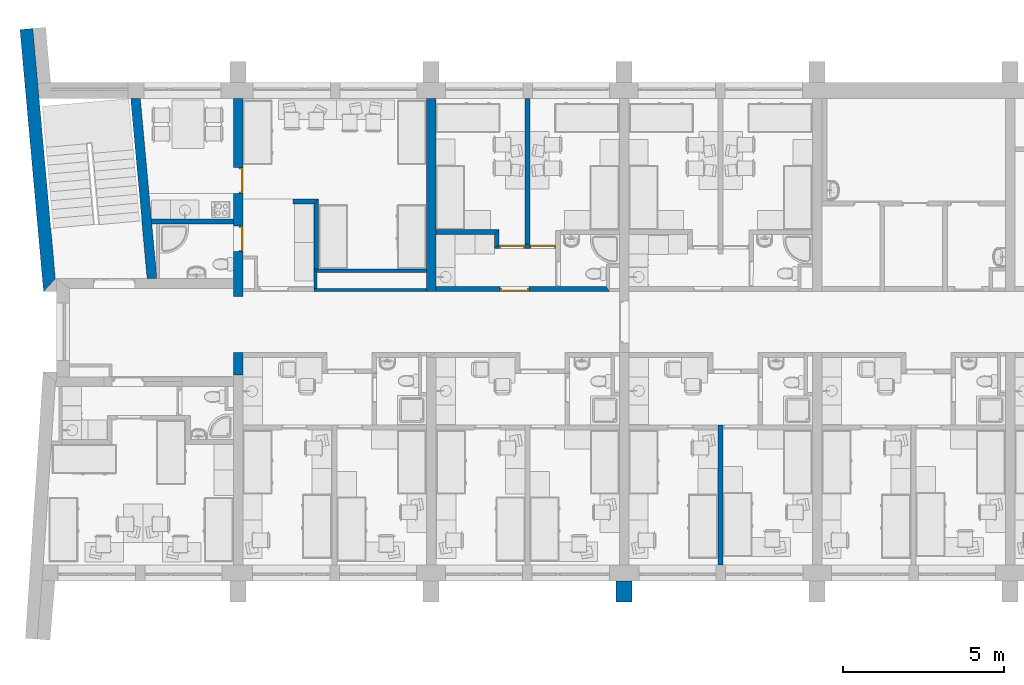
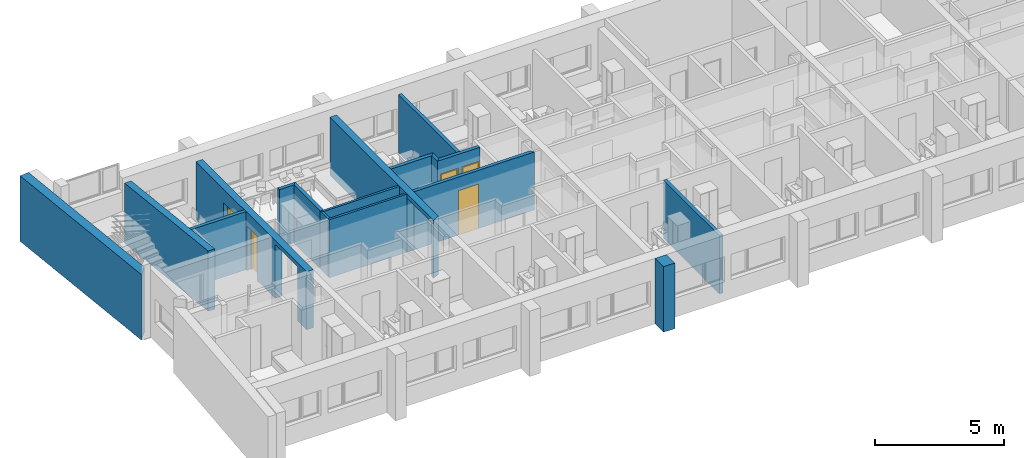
# One storey, part 5 of 172: 17 walls, 5 doors, 7 openings.
"""IFC2X3 building model written with IfcOpenShell, lengths in millimetres."""

from ifc_helpers import new_model, entity, si_unit, converted_unit, money_unit, direction, frame, origin_with_axes, place, context, subcontext, project, spatial, polyline, outline, extrude, faceted_brep, source, transform, mapped, material, material_list, layer, layer_set, layer_usage, type_object, element, fill, save


model = new_model("IFC2X3")

# Units and contexts
model_context = context("Model", 3, precision=1e-05, world=origin_with_axes(), true_north=direction((0.0, 1.0)))
body_context = subcontext(model_context, "Body", "Model", "MODEL_VIEW")
ifc_project = project(units=[si_unit("LENGTHUNIT", "METRE", prefix="MILLI"), si_unit("AREAUNIT", "SQUARE_METRE"), si_unit("VOLUMEUNIT", "CUBIC_METRE"), converted_unit("PLANEANGLEUNIT", "DEGREE", entity("IfcPlaneAngleMeasure", 0.0174532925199), si_unit("PLANEANGLEUNIT", "RADIAN"), dimensions=[0, 0, 0, 0, 0, 0, 0]), si_unit("SOLIDANGLEUNIT", "STERADIAN"), money_unit("USD"), converted_unit("TIMEUNIT", "Year", entity("IfcTimeMeasure", 31556926.0), si_unit("TIMEUNIT", "SECOND"), dimensions=[0, 0, 0, 0, 0, 0, 0]), si_unit("MASSUNIT", "GRAM"), si_unit("THERMODYNAMICTEMPERATUREUNIT", "DEGREE_CELSIUS"), si_unit("LUMINOUSINTENSITYUNIT", "LUMEN")], contexts=[model_context])

# Site, building, storey
site_placement = place(None, origin_with_axes())
site = spatial("IfcSite", under=ifc_project, at=site_placement, Name="Site", CompositionType="ELEMENT")
building_placement = place(site_placement, origin_with_axes())
building = spatial("IfcBuilding", under=site, at=building_placement, Name="Building", CompositionType="ELEMENT")
storey_placement = place(building_placement, frame((0.0, 0.0, 3200.0), z_axis=(0.0, 0.0, 1.0), x_axis=(1.0, 0.0, 0.0)))
storey = spatial("IfcBuildingStorey", under=building, at=storey_placement, Name="3KORRUS", CompositionType="ELEMENT", Elevation=3200.0)

# Walls
ifc_material_1 = material(Name="Olemasolevad seinad tellis, uus viimistlus")
ifc_layer_1 = layer(ifc_material_1, 400.0, ventilated="UNKNOWN")
ifc_layer_set_1 = layer_set([ifc_layer_1], Name="Olemasolevad seinad tellis, uus viimistlus 400")
ifc_layer_usage_1 = layer_usage(ifc_layer_set_1, "AXIS2", "POSITIVE", -400.0)
wall_type_1 = type_object("IfcWallType", Name="Olemasolevad seinad tellis, uus viimistlus 400", PredefinedType="NOTDEFINED")
wall_1_placement = place(storey_placement, frame((-54187.7234453, -11140.7868098, 0.0), z_axis=(0.0, 0.0, 1.0), x_axis=(-0.0895981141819, 0.995978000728, 0.0)))
element("IfcWallStandardCase", 1, at=wall_1_placement, inside=storey, type_object=wall_type_1, material=ifc_layer_usage_1, Name="VS1", ObjectType="VS1", context=body_context, shape_type="SweptSolid", body=[
    extrude(outline(polyline([(365.631323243, -400.0), (8177.32831985, -400.0), (8177.32831985, 0.0), (0.0, 0.0), (365.631323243, -400.0)])), origin_with_axes(), (0.0, 0.0, 1.0), 3100.0),
])
ifc_layer_2 = layer(ifc_material_1, 500.0, ventilated="UNKNOWN")
ifc_layer_set_2 = layer_set([ifc_layer_2], Name="Olemasolevad seinad tellis, uus viimistlus 500")
ifc_layer_usage_2 = layer_usage(ifc_layer_set_2, "AXIS2", "POSITIVE", -100.0)
wall_type_2 = type_object("IfcWallType", Name="Olemasolevad seinad tellis, uus viimistlus 500", PredefinedType="NOTDEFINED")
wall_2_placement = place(storey_placement, frame((-35990.2967033, -20796.6419407, 0.0), z_axis=(0.0, 0.0, 1.0), x_axis=(0.0, 1.0, 0.0)))
element("IfcWallStandardCase", 2, at=wall_2_placement, inside=storey, type_object=wall_type_2, material=ifc_layer_usage_2, Name="VS1", ObjectType="VS1", context=body_context, shape_type="SweptSolid", body=[
    extrude(outline(polyline([(0.0, -100.0), (657.402041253, -100.0), (657.402041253, 400.0), (0.0, 400.0), (0.0, -100.0)])), origin_with_axes(), (0.0, 0.0, 1.0), 3100.0),
])
ifc_material_2 = material(Name="UmbKipsplaat")
ifc_layer_3 = layer(ifc_material_2, 13.0, ventilated="UNKNOWN")
ifc_layer_4 = layer(ifc_material_2, 13.0, ventilated="UNKNOWN")
ifc_material_3 = material(Name="SOOJUSTUS MINERAALVILL")
ifc_layer_5 = layer(ifc_material_3, 98.0, ventilated="UNKNOWN")
ifc_layer_6 = layer(ifc_material_2, 13.0, ventilated="UNKNOWN")
ifc_layer_7 = layer(ifc_material_2, 13.0, ventilated="UNKNOWN")
ifc_layer_set_3 = layer_set([ifc_layer_3, ifc_layer_4, ifc_layer_5, ifc_layer_6, ifc_layer_7], Name="kipssein150")
ifc_layer_usage_3 = layer_usage(ifc_layer_set_3, "AXIS2", "POSITIVE", -150.0)
wall_type_3 = type_object("IfcWallType", Name="kipssein150 150", PredefinedType="NOTDEFINED")
wall_3_placement = place(storey_placement, frame((-40022.0319183, -9366.37850445, 0.0), z_axis=(0.0, 0.0, 1.0), x_axis=(0.0, -1.0, 0.0)))
element("IfcWallStandardCase", 3, at=wall_3_placement, inside=storey, type_object=wall_type_3, material=ifc_layer_usage_3, Name="SS1", ObjectType="SS1", context=body_context, shape_type="SweptSolid", body=[
    extrude(outline(polyline([(0.0, -150.0), (440.51563414, -150.0), (290.51563414, 0.0), (-150.0, 0.0), (0.0, -150.0)])), origin_with_axes(), (0.0, 0.0, 1.0), 2750.0),
])
ifc_layer_usage_4 = layer_usage(ifc_layer_set_3, "AXIS2", "POSITIVE", -150.0)
wall_4_placement = place(storey_placement, frame((-40022.0319183, -9366.37850445, 0.0), z_axis=(0.0, 0.0, 1.0), x_axis=(-1.0, 0.0, 0.0)))
element("IfcWallStandardCase", 4, at=wall_4_placement, inside=storey, type_object=wall_type_3, material=ifc_layer_usage_4, Name="SS1", ObjectType="SS1", context=body_context, shape_type="SweptSolid", body=[
    extrude(outline(polyline([(0.0, -150.0), (1968.264785, -150.0), (1968.264785, 0.0), (150.0, 0.0), (0.0, -150.0)])), origin_with_axes(), (0.0, 0.0, 1.0), 2750.0),
])
ifc_layer_usage_5 = layer_usage(ifc_layer_set_3, "AXIS2", "POSITIVE", 0.0)
wall_5_placement = place(storey_placement, frame((-39222.0319183, -5039.6041088, 0.0), z_axis=(0.0, 0.0, 1.0), x_axis=(0.0, -1.0, 0.0)))
element("IfcWallStandardCase", 5, at=wall_5_placement, inside=storey, type_object=wall_type_3, material=ifc_layer_usage_5, Name="SS1", ObjectType="SS1", context=body_context, shape_type="SweptSolid", body=[
    extrude(outline(polyline([(100.0, 0.0), (4617.29002979, 0.0), (4617.29002979, 150.0), (100.0, 150.0), (100.0, 0.0)])), origin_with_axes(), (0.0, 0.0, 1.0), 2750.0),
])

# Wall, openings, doors
ifc_layer_usage_6 = layer_usage(ifc_layer_set_3, "AXIS2", "POSITIVE", 0.0)
wall_6_placement = place(storey_placement, frame((-40022.0319183, -9806.89413859, 0.0), z_axis=(0.0, 0.0, 1.0), x_axis=(1.0, 0.0, 0.0)))
wall_6 = element("IfcWallStandardCase", 6, at=wall_6_placement, inside=storey, type_object=wall_type_3, material=ifc_layer_usage_6, Name="SS1", ObjectType="SS1", context=body_context, shape_type="SweptSolid", body=[
    extrude(outline(polyline([(-150.0, 0.0), (1750.4468196, 0.0), (1750.4468196, 150.0), (0.0, 150.0), (-150.0, 0.0)])), origin_with_axes(), (0.0, 0.0, 1.0), 2750.0),
])
opening_1_placement = place(wall_6_placement, frame((1350.45577623, 0.0, 0.0), z_axis=(0.0, 0.0, 1.0), x_axis=(1.0, 0.0, 0.0)))
opening_1 = element("IfcOpeningElement", 7, at=opening_1_placement, cuts=wall_6, Name="SU3-5", context=body_context, shape_type="SweptSolid", body=[
    extrude(outline(polyline([(-400.0, 0.0), (400.0, 0.0), (400.0, 2100.0), (-400.0, 2100.0), (-400.0, 0.0)])), frame((0.0, 150.0, 0.0), z_axis=(0.0, 1.0, 0.0), x_axis=(-1.0, 0.0, 0.0)), (0.0, 0.0, -1.0), 450.0),
])
opening_2_placement = place(wall_6_placement, frame((400.0, 0.0, 0.0), z_axis=(0.0, 0.0, 1.0), x_axis=(1.0, 0.0, 0.0)))
opening_2 = element("IfcOpeningElement", 8, at=opening_2_placement, cuts=wall_6, Name="SU3-4", context=body_context, shape_type="SweptSolid", body=[
    extrude(outline(polyline([(-400.0, 0.0), (400.0, 0.0), (400.0, 2100.0), (-400.0, 2100.0), (-400.0, 0.0)])), frame((0.0, 150.0, 0.0), z_axis=(0.0, -1.0, 0.0), x_axis=(1.0, 0.0, 0.0)), (0.0, 0.0, 1.0), 450.0),
])
ifc_material_4 = material(Name="Background")
ifc_material_list = material_list([ifc_material_4])
door_style_1 = type_object("IfcDoorStyle", Name="Door 19", ConstructionType="NOTDEFINED", OperationType="SINGLE_SWING_LEFT", ParameterTakesPrecedence=False, Sizeable=False)
shared_shape_1 = source(origin_with_axes(), body_context, "Body", "Brep", [
    faceted_brep([(360.0, -75.0, 0.0), (360.0, -150.0, 0.0), (360.0, -150.0, 2060.0), (360.0, -75.0, 2060.0), (372.0, -75.0, 0.0), (372.0, -35.0, 0.0), (400.0, -35.0, 0.0), (400.0, -150.0, 0.0), (400.0, -150.0, 2060.0), (372.0, -75.0, 2060.0), (400.0, -35.0, 2060.0), (372.0, -35.0, 2060.0)], [[[0, 1, 2, 3]], [[4, 5, 6, 7, 1, 0]], [[2, 1, 7, 8]], [[9, 3, 2, 8, 10, 11]], [[9, 4, 0, 3]], [[11, 5, 4, 9]], [[11, 10, 6, 5]], [[7, 6, 10, 8]]]),
    faceted_brep([(-372.0, -75.0, 2060.0), (-372.0, -35.0, 2060.0), (-400.0, -35.0, 2060.0), (-400.0, -150.0, 2060.0), (-360.0, -150.0, 2060.0), (-360.0, -75.0, 2060.0), (-372.0, -75.0, 0.0), (-372.0, -35.0, 0.0), (-400.0, -35.0, 0.0), (-400.0, -150.0, 0.0), (-360.0, -150.0, 0.0), (-360.0, -75.0, 0.0)], [[[0, 1, 2, 3, 4, 5]], [[0, 6, 7, 1]], [[7, 8, 2, 1]], [[3, 2, 8, 9]], [[4, 3, 9, 10]], [[5, 4, 10, 11]], [[5, 11, 6, 0]], [[6, 11, 10, 9, 8, 7]]]),
    faceted_brep([(372.0, -35.0, 2072.0), (-372.0, -35.0, 2072.0), (-372.0, -35.0, 2060.0), (-400.0, -35.0, 2060.0), (-400.0, -35.0, 2100.0), (400.0, -35.0, 2100.0), (400.0, -35.0, 2060.0), (372.0, -35.0, 2060.0), (372.0, -75.0, 2072.0), (-372.0, -75.0, 2072.0), (-372.0, -75.0, 2060.0), (-360.0, -75.0, 2060.0), (-360.0, -150.0, 2060.0), (-400.0, -150.0, 2060.0), (-400.0, -150.0, 2100.0), (400.0, -150.0, 2100.0), (400.0, -150.0, 2060.0), (372.0, -75.0, 2060.0), (360.0, -150.0, 2060.0), (360.0, -75.0, 2060.0)], [[[0, 1, 2, 3, 4, 5, 6, 7]], [[0, 8, 9, 1]], [[1, 9, 10, 2]], [[10, 11, 12, 13, 3, 2]], [[14, 4, 3, 13]], [[15, 5, 4, 14]], [[16, 6, 5, 15]], [[17, 7, 6, 16, 18, 19]], [[7, 17, 8, 0]], [[10, 9, 8, 17, 19, 11]], [[19, 18, 12, 11]], [[13, 12, 18, 16, 15, 14]]]),
    faceted_brep([(-372.0, -35.0, 0.0), (372.0, -35.0, 0.0), (372.0, -75.0, 0.0), (-372.0, -75.0, 0.0), (-372.0, -35.0, 2072.0), (372.0, -35.0, 2072.0), (372.0, -75.0, 2072.0), (-372.0, -75.0, 2072.0)], [[[0, 1, 2, 3]], [[0, 4, 5, 1]], [[1, 5, 6, 2]], [[3, 2, 6, 7]], [[4, 0, 3, 7]], [[5, 4, 7, 6]]]),
])
door_1_placement = place(opening_1_placement, frame((-400.0, 0.0, 0.0), z_axis=(0.0, 0.0, 1.0), x_axis=(1.0, 0.0, 0.0)))
door_1 = element("IfcDoor", 9, at=door_1_placement, inside=storey, type_object=door_style_1, material=ifc_material_list, Name="SU3-5", ObjectType="Toa uks", OverallHeight=2100.0, OverallWidth=800.0, context=body_context, shape_type="MappedRepresentation", body=[
    mapped(shared_shape_1, transform((400.0, 150.0, 0.0))),
])
fill(opening_1, door_1)
door_style_2 = type_object("IfcDoorStyle", Name="Door 19", ConstructionType="NOTDEFINED", OperationType="SINGLE_SWING_RIGHT", ParameterTakesPrecedence=False, Sizeable=False)
shared_shape_2 = source(origin_with_axes(), body_context, "Body", "Brep", [
    faceted_brep([(-360.0, -75.0, 0.0), (-360.0, -75.0, 2060.0), (-360.0, -150.0, 2060.0), (-360.0, -150.0, 0.0), (-372.0, -75.0, 2060.0), (-372.0, -75.0, 0.0), (-372.0, -35.0, 2060.0), (-400.0, -35.0, 2060.0), (-400.0, -150.0, 2060.0), (-400.0, -150.0, 0.0), (-400.0, -35.0, 0.0), (-372.0, -35.0, 0.0)], [[[0, 1, 2, 3]], [[4, 1, 0, 5]], [[4, 6, 7, 8, 2, 1]], [[2, 8, 9, 3]], [[5, 0, 3, 9, 10, 11]], [[6, 4, 5, 11]], [[6, 11, 10, 7]], [[9, 8, 7, 10]]]),
    faceted_brep([(372.0, -75.0, 2060.0), (360.0, -75.0, 2060.0), (360.0, -150.0, 2060.0), (400.0, -150.0, 2060.0), (400.0, -35.0, 2060.0), (372.0, -35.0, 2060.0), (372.0, -75.0, 0.0), (360.0, -75.0, 0.0), (360.0, -150.0, 0.0), (400.0, -150.0, 0.0), (400.0, -35.0, 0.0), (372.0, -35.0, 0.0)], [[[0, 1, 2, 3, 4, 5]], [[1, 0, 6, 7]], [[1, 7, 8, 2]], [[2, 8, 9, 3]], [[3, 9, 10, 4]], [[11, 5, 4, 10]], [[0, 5, 11, 6]], [[6, 11, 10, 9, 8, 7]]]),
    faceted_brep([(-372.0, -35.0, 2072.0), (-372.0, -35.0, 2060.0), (-400.0, -35.0, 2060.0), (-400.0, -35.0, 2100.0), (400.0, -35.0, 2100.0), (400.0, -35.0, 2060.0), (372.0, -35.0, 2060.0), (372.0, -35.0, 2072.0), (-372.0, -75.0, 2072.0), (-372.0, -75.0, 2060.0), (-360.0, -75.0, 2060.0), (-360.0, -150.0, 2060.0), (-400.0, -150.0, 2060.0), (-400.0, -150.0, 2100.0), (400.0, -150.0, 2100.0), (400.0, -150.0, 2060.0), (372.0, -75.0, 2060.0), (360.0, -150.0, 2060.0), (360.0, -75.0, 2060.0), (372.0, -75.0, 2072.0)], [[[0, 1, 2, 3, 4, 5, 6, 7]], [[1, 0, 8, 9]], [[9, 10, 11, 12, 2, 1]], [[12, 13, 3, 2]], [[13, 14, 4, 3]], [[14, 15, 5, 4]], [[16, 6, 5, 15, 17, 18]], [[7, 6, 16, 19]], [[0, 7, 19, 8]], [[16, 18, 10, 9, 8, 19]], [[10, 18, 17, 11]], [[15, 14, 13, 12, 11, 17]]]),
    faceted_brep([(372.0, -35.0, 0.0), (372.0, -75.0, 0.0), (-372.0, -75.0, 0.0), (-372.0, -35.0, 0.0), (372.0, -35.0, 2072.0), (372.0, -75.0, 2072.0), (-372.0, -75.0, 2072.0), (-372.0, -35.0, 2072.0)], [[[0, 1, 2, 3]], [[4, 5, 1, 0]], [[1, 5, 6, 2]], [[3, 2, 6, 7]], [[0, 3, 7, 4]], [[7, 6, 5, 4]]]),
])
door_2_placement = place(opening_2_placement, frame((-400.0, 0.0, 0.0), z_axis=(0.0, 0.0, 1.0), x_axis=(1.0, 0.0, 0.0)))
door_2 = element("IfcDoor", 10, at=door_2_placement, inside=storey, type_object=door_style_2, material=ifc_material_list, Name="SU3-4", ObjectType="Toa uks", OverallHeight=2100.0, OverallWidth=800.0, context=body_context, shape_type="MappedRepresentation", body=[
    mapped(shared_shape_2, transform((400.0, 150.0, 0.0))),
])
fill(opening_2, door_2)

# Walls
ifc_layer_usage_7 = layer_usage(ifc_layer_set_3, "AXIS2", "POSITIVE", 0.0)
wall_7_placement = place(storey_placement, frame((-46433.9824806, -8409.87086674, 0.0), z_axis=(0.0, 0.0, 1.0), x_axis=(1.0, 0.0, 0.0)))
element("IfcWallStandardCase", 11, at=wall_7_placement, inside=storey, type_object=wall_type_3, material=ifc_layer_usage_7, Name="SS1", ObjectType="SS1", context=body_context, shape_type="SweptSolid", body=[
    extrude(outline(polyline([(0.0, 0.0), (649.8497058, 0.0), (799.8497058, 150.0), (0.0, 150.0), (0.0, 0.0)])), origin_with_axes(), (0.0, 0.0, 1.0), 2750.0),
])
ifc_layer_usage_8 = layer_usage(ifc_layer_set_3, "AXIS2", "POSITIVE", 0.0)
wall_8_placement = place(storey_placement, frame((-45784.1327748, -8409.87086674, 0.0), z_axis=(0.0, 0.0, 1.0), x_axis=(0.0, -1.0, 0.0)))
element("IfcWallStandardCase", 12, at=wall_8_placement, inside=storey, type_object=wall_type_3, material=ifc_layer_usage_8, Name="SS1", ObjectType="SS1", context=body_context, shape_type="SweptSolid", body=[
    extrude(outline(polyline([(0.0, 0.0), (2030.09981647, 0.0), (2030.09981647, 150.0), (-150.0, 150.0), (0.0, 0.0)])), origin_with_axes(), (0.0, 0.0, 1.0), 2750.0),
])

# Wall, opening, door
ifc_layer_usage_9 = layer_usage(ifc_layer_set_3, "AXIS2", "POSITIVE", 0.0)
wall_9_placement = place(storey_placement, frame((-41990.2967033, -11136.6041088, 0.0), z_axis=(0.0, 0.0, 1.0), x_axis=(1.0, 0.0, 0.0)))
wall_9 = element("IfcWallStandardCase", 13, at=wall_9_placement, inside=storey, type_object=wall_type_3, material=ifc_layer_usage_9, Name="SS1", ObjectType="SS1", context=body_context, shape_type="SweptSolid", body=[
    extrude(outline(polyline([(0.0, 0.0), (5400.2883953, 0.0), (5300.2883953, 150.0), (0.0, 150.0), (0.0, 0.0)])), origin_with_axes(), (0.0, 0.0, 1.0), 2750.0),
])
opening_3_placement = place(wall_9_placement, frame((2443.26478505, 0.0, 0.0), z_axis=(0.0, 0.0, 1.0), x_axis=(1.0, 0.0, 0.0)))
opening_3 = element("IfcOpeningElement", 14, at=opening_3_placement, cuts=wall_9, Name="SU2-6", context=body_context, shape_type="SweptSolid", body=[
    extrude(outline(polyline([(-450.0, -2100.0), (450.0, -2100.0), (450.0, 0.0), (-450.0, 0.0), (-450.0, -2100.0)])), frame((0.0, 150.0, 0.0), z_axis=(0.0, 1.0, 0.0), x_axis=(1.0, 0.0, 0.0)), (0.0, 0.0, -1.0), 450.0),
])
door_style_3 = type_object("IfcDoorStyle", Name="Door 19", ConstructionType="NOTDEFINED", OperationType="SINGLE_SWING_LEFT", ParameterTakesPrecedence=False, Sizeable=False)
shared_shape_3 = source(origin_with_axes(), body_context, "Body", "Brep", [
    faceted_brep([(410.0, -40.0, 0.0), (410.0, -115.0, 0.0), (410.0, -115.0, 2060.0), (410.0, -40.0, 2060.0), (422.0, -40.0, 0.0), (422.0, 0.0, 0.0), (450.0, 0.0, 0.0), (450.0, -115.0, 0.0), (450.0, -115.0, 2060.0), (422.0, -40.0, 2060.0), (450.0, 0.0, 2060.0), (422.0, 0.0, 2060.0)], [[[0, 1, 2, 3]], [[4, 5, 6, 7, 1, 0]], [[2, 1, 7, 8]], [[9, 3, 2, 8, 10, 11]], [[9, 4, 0, 3]], [[11, 5, 4, 9]], [[11, 10, 6, 5]], [[7, 6, 10, 8]]]),
    faceted_brep([(-422.0, -40.0, 2060.0), (-422.0, 0.0, 2060.0), (-450.0, 0.0, 2060.0), (-450.0, -115.0, 2060.0), (-410.0, -115.0, 2060.0), (-410.0, -40.0, 2060.0), (-422.0, -40.0, 0.0), (-422.0, 0.0, 0.0), (-450.0, 0.0, 0.0), (-450.0, -115.0, 0.0), (-410.0, -115.0, 0.0), (-410.0, -40.0, 0.0)], [[[0, 1, 2, 3, 4, 5]], [[0, 6, 7, 1]], [[7, 8, 2, 1]], [[3, 2, 8, 9]], [[4, 3, 9, 10]], [[5, 4, 10, 11]], [[5, 11, 6, 0]], [[6, 11, 10, 9, 8, 7]]]),
    faceted_brep([(422.0, 0.0, 2072.0), (-422.0, 0.0, 2072.0), (-422.0, 0.0, 2060.0), (-450.0, 0.0, 2060.0), (-450.0, 0.0, 2100.0), (450.0, 0.0, 2100.0), (450.0, 0.0, 2060.0), (422.0, 0.0, 2060.0), (422.0, -40.0, 2072.0), (-422.0, -40.0, 2072.0), (-422.0, -40.0, 2060.0), (-410.0, -40.0, 2060.0), (-410.0, -115.0, 2060.0), (-450.0, -115.0, 2060.0), (-450.0, -115.0, 2100.0), (450.0, -115.0, 2100.0), (450.0, -115.0, 2060.0), (422.0, -40.0, 2060.0), (410.0, -115.0, 2060.0), (410.0, -40.0, 2060.0)], [[[0, 1, 2, 3, 4, 5, 6, 7]], [[0, 8, 9, 1]], [[1, 9, 10, 2]], [[10, 11, 12, 13, 3, 2]], [[14, 4, 3, 13]], [[15, 5, 4, 14]], [[16, 6, 5, 15]], [[17, 7, 6, 16, 18, 19]], [[7, 17, 8, 0]], [[10, 9, 8, 17, 19, 11]], [[19, 18, 12, 11]], [[13, 12, 18, 16, 15, 14]]]),
    faceted_brep([(-422.0, 0.0, 0.0), (422.0, 0.0, 0.0), (422.0, -40.0, 0.0), (-422.0, -40.0, 0.0), (-422.0, 0.0, 2072.0), (422.0, 0.0, 2072.0), (422.0, -40.0, 2072.0), (-422.0, -40.0, 2072.0)], [[[0, 1, 2, 3]], [[0, 4, 5, 1]], [[1, 5, 6, 2]], [[3, 2, 6, 7]], [[4, 0, 3, 7]], [[5, 4, 7, 6]]]),
])
door_3_placement = place(opening_3_placement, frame((450.0, 0.0, 0.0), z_axis=(0.0, 0.0, 1.0), x_axis=(-1.0, 0.0, 0.0)))
door_3 = element("IfcDoor", 15, at=door_3_placement, inside=storey, type_object=door_style_3, material=ifc_material_list, Name="SU2-6", ObjectType="Korteri välisuks", OverallHeight=2100.0, OverallWidth=900.0, context=body_context, shape_type="MappedRepresentation", body=[
    mapped(shared_shape_3, transform((450.0, 0.0, 0.0))),
])
fill(opening_3, door_3)

# Walls
ifc_layer_usage_10 = layer_usage(ifc_layer_set_3, "AXIS2", "POSITIVE", 0.0)
wall_10_placement = place(storey_placement, frame((-33070.2967033, -19739.2398994, 0.0), z_axis=(0.0, 0.0, 1.0), x_axis=(0.0, 1.0, 0.0)))
element("IfcWallStandardCase", 16, at=wall_10_placement, inside=storey, type_object=wall_type_3, material=ifc_layer_usage_10, Name="SS1", ObjectType="SS1", context=body_context, shape_type="SweptSolid", body=[
    extrude(outline(polyline([(100.0, 0.0), (4450.0, 0.0), (4450.0, 150.0), (100.0, 150.0), (100.0, 0.0)])), origin_with_axes(), (0.0, 0.0, 1.0), 2750.0),
])
ifc_layer_usage_11 = layer_usage(ifc_layer_set_3, "AXIS2", "POSITIVE", 0.0)
wall_11_placement = place(storey_placement, frame((-50822.8272619, -9039.27319796, 0.0), z_axis=(0.0, 0.0, 1.0), x_axis=(1.0, 0.0, 0.0)))
element("IfcWallStandardCase", 17, at=wall_11_placement, inside=storey, type_object=wall_type_3, material=ifc_layer_usage_11, Name="SS1", ObjectType="SS1", context=body_context, shape_type="SweptSolid", body=[
    extrude(outline(polyline([(2.39523956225e-08, 0.0), (2532.5305586, 0.0), (2532.5305586, 150.0), (-13.7140689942, 150.0), (2.39523956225e-08, 0.0)])), origin_with_axes(), (0.0, 0.0, 1.0), 2750.0),
])

# Wall, openings, doors
ifc_material_5 = material(Name="Olemasolevad seinad tellis, uus viimistlus")
ifc_layer_8 = layer(ifc_material_5, 300.0, ventilated="UNKNOWN")
ifc_layer_set_4 = layer_set([ifc_layer_8], Name="Olemasolevad seinad tellis, uus viimistlus  300")
ifc_layer_usage_12 = layer_usage(ifc_layer_set_4, "AXIS2", "POSITIVE", 0.0)
wall_type_4 = type_object("IfcWallType", Name="Olemasolevad seinad tellis, uus viimistlus  300", PredefinedType="NOTDEFINED")
wall_12_placement = place(storey_placement, frame((-47990.2967033, -13739.2398994, 0.0), z_axis=(0.0, 0.0, 1.0), x_axis=(0.0, 1.0, 0.0)))
wall_12 = element("IfcWallStandardCase", 18, at=wall_12_placement, inside=storey, type_object=wall_type_4, material=ifc_layer_usage_12, Name="KS1", ObjectType="KS1", context=body_context, shape_type="SweptSolid", body=[
    extrude(outline(polyline([(0.0, 0.0), (8599.63579061, 0.0), (8599.63579061, 300.0), (0.0, 300.0), (0.0, 0.0)])), origin_with_axes(), (0.0, 0.0, 1.0), 2750.0),
])
opening_4_placement = place(wall_12_placement, frame((1576.39661785, 0.0, 0.0), z_axis=(0.0, 0.0, 1.0), x_axis=(1.0, 0.0, 0.0)))
element("IfcOpeningElement", 19, at=opening_4_placement, cuts=wall_12, Name="DOO - 001", context=body_context, shape_type="SweptSolid", body=[
    extrude(outline(polyline([(-876.397, 0.0), (-876.397, -2550.0), (876.397, -2550.0), (876.397, 0.0), (-876.397, 0.0)])), frame((0.0, 300.0, 0.0), z_axis=(0.0, 1.0, 0.0), x_axis=(1.0, 0.0, 0.0)), (0.0, 0.0, 1.0), 300.0),
    extrude(outline(polyline([(-876.397, 2550.0), (-876.397, 0.0), (876.397, 0.0), (876.397, 2550.0), (-876.397, 2550.0)])), frame((0.0, 300.0, 0.0), z_axis=(0.0, -1.0, 0.0), x_axis=(1.0, 0.0, 0.0)), (0.0, 0.0, 1.0), 300.0),
])
opening_5_placement = place(wall_12_placement, frame((6049.36903267, 0.0, 0.0), z_axis=(0.0, 0.0, 1.0), x_axis=(1.0, 0.0, 0.0)))
opening_5 = element("IfcOpeningElement", 20, at=opening_5_placement, cuts=wall_12, Name="SU3-4", context=body_context, shape_type="SweptSolid", body=[
    extrude(outline(polyline([(-400.0, -2100.0), (400.0, -2100.0), (400.0, 0.0), (-400.0, 0.0), (-400.0, -2100.0)])), frame((0.0, 300.0, 0.0), z_axis=(0.0, -1.0, 0.0), x_axis=(-1.0, 0.0, 0.0)), (0.0, 0.0, 1.0), 900.0),
])
opening_6_placement = place(wall_12_placement, frame((4239.50270273, 0.0, 0.0), z_axis=(0.0, 0.0, 1.0), x_axis=(1.0, 0.0, 0.0)))
opening_6 = element("IfcOpeningElement", 21, at=opening_6_placement, cuts=wall_12, Name="SU3-3", context=body_context, shape_type="SweptSolid", body=[
    extrude(outline(polyline([(-400.0, -2100.0), (400.0, -2100.0), (400.0, 0.0), (-400.0, 0.0), (-400.0, -2100.0)])), frame((0.0, 300.0, 0.0), z_axis=(0.0, 1.0, 0.0), x_axis=(1.0, 0.0, 0.0)), (0.0, 0.0, -1.0), 900.0),
])
shared_shape_4 = source(origin_with_axes(), body_context, "Body", "Brep", [
    faceted_brep([(360.0, -40.0, 0.0), (360.0, -115.0, 0.0), (360.0, -115.0, 2060.0), (360.0, -40.0, 2060.0), (372.0, -40.0, 0.0), (372.0, 0.0, 0.0), (400.0, 0.0, 0.0), (400.0, -115.0, 0.0), (400.0, -115.0, 2060.0), (372.0, -40.0, 2060.0), (400.0, 0.0, 2060.0), (372.0, 0.0, 2060.0)], [[[0, 1, 2, 3]], [[4, 5, 6, 7, 1, 0]], [[2, 1, 7, 8]], [[9, 3, 2, 8, 10, 11]], [[9, 4, 0, 3]], [[11, 5, 4, 9]], [[11, 10, 6, 5]], [[7, 6, 10, 8]]]),
    faceted_brep([(-372.0, -40.0, 2060.0), (-372.0, 0.0, 2060.0), (-400.0, 0.0, 2060.0), (-400.0, -115.0, 2060.0), (-360.0, -115.0, 2060.0), (-360.0, -40.0, 2060.0), (-372.0, -40.0, 0.0), (-372.0, 0.0, 0.0), (-400.0, 0.0, 0.0), (-400.0, -115.0, 0.0), (-360.0, -115.0, 0.0), (-360.0, -40.0, 0.0)], [[[0, 1, 2, 3, 4, 5]], [[0, 6, 7, 1]], [[7, 8, 2, 1]], [[3, 2, 8, 9]], [[4, 3, 9, 10]], [[5, 4, 10, 11]], [[5, 11, 6, 0]], [[6, 11, 10, 9, 8, 7]]]),
    faceted_brep([(372.0, 0.0, 2072.0), (-372.0, 0.0, 2072.0), (-372.0, 0.0, 2060.0), (-400.0, 0.0, 2060.0), (-400.0, 0.0, 2100.0), (400.0, 0.0, 2100.0), (400.0, 0.0, 2060.0), (372.0, 0.0, 2060.0), (372.0, -40.0, 2072.0), (-372.0, -40.0, 2072.0), (-372.0, -40.0, 2060.0), (-360.0, -40.0, 2060.0), (-360.0, -115.0, 2060.0), (-400.0, -115.0, 2060.0), (-400.0, -115.0, 2100.0), (400.0, -115.0, 2100.0), (400.0, -115.0, 2060.0), (372.0, -40.0, 2060.0), (360.0, -115.0, 2060.0), (360.0, -40.0, 2060.0)], [[[0, 1, 2, 3, 4, 5, 6, 7]], [[0, 8, 9, 1]], [[1, 9, 10, 2]], [[10, 11, 12, 13, 3, 2]], [[14, 4, 3, 13]], [[15, 5, 4, 14]], [[16, 6, 5, 15]], [[17, 7, 6, 16, 18, 19]], [[7, 17, 8, 0]], [[10, 9, 8, 17, 19, 11]], [[19, 18, 12, 11]], [[13, 12, 18, 16, 15, 14]]]),
    faceted_brep([(-372.0, 0.0, 0.0), (372.0, 0.0, 0.0), (372.0, -40.0, 0.0), (-372.0, -40.0, 0.0), (-372.0, 0.0, 2072.0), (372.0, 0.0, 2072.0), (372.0, -40.0, 2072.0), (-372.0, -40.0, 2072.0)], [[[0, 1, 2, 3]], [[0, 4, 5, 1]], [[1, 5, 6, 2]], [[3, 2, 6, 7]], [[4, 0, 3, 7]], [[5, 4, 7, 6]]]),
])
door_4_placement = place(opening_6_placement, frame((400.0, 0.0, 0.0), z_axis=(0.0, 0.0, 1.0), x_axis=(-1.0, 0.0, 0.0)))
door_4 = element("IfcDoor", 22, at=door_4_placement, inside=storey, type_object=door_style_3, material=ifc_material_list, Name="SU3-3", ObjectType="WC-uks", OverallHeight=2100.0, OverallWidth=800.0, context=body_context, shape_type="MappedRepresentation", body=[
    mapped(shared_shape_4, transform((400.0, 0.0, 0.0))),
])
fill(opening_6, door_4)
door_style_4 = type_object("IfcDoorStyle", Name="Door 19", ConstructionType="NOTDEFINED", OperationType="SINGLE_SWING_RIGHT", ParameterTakesPrecedence=False, Sizeable=False)
shared_shape_5 = source(origin_with_axes(), body_context, "Body", "Brep", [
    faceted_brep([(-360.0, -40.0, 0.0), (-360.0, -40.0, 2060.0), (-360.0, -115.0, 2060.0), (-360.0, -115.0, 0.0), (-372.0, -40.0, 2060.0), (-372.0, -40.0, 0.0), (-372.0, 0.0, 2060.0), (-400.0, 0.0, 2060.0), (-400.0, -115.0, 2060.0), (-400.0, -115.0, 0.0), (-400.0, 0.0, 0.0), (-372.0, 0.0, 0.0)], [[[0, 1, 2, 3]], [[4, 1, 0, 5]], [[4, 6, 7, 8, 2, 1]], [[2, 8, 9, 3]], [[5, 0, 3, 9, 10, 11]], [[6, 4, 5, 11]], [[6, 11, 10, 7]], [[9, 8, 7, 10]]]),
    faceted_brep([(372.0, -40.0, 2060.0), (360.0, -40.0, 2060.0), (360.0, -115.0, 2060.0), (400.0, -115.0, 2060.0), (400.0, 0.0, 2060.0), (372.0, 0.0, 2060.0), (372.0, -40.0, 0.0), (360.0, -40.0, 0.0), (360.0, -115.0, 0.0), (400.0, -115.0, 0.0), (400.0, 0.0, 0.0), (372.0, 0.0, 0.0)], [[[0, 1, 2, 3, 4, 5]], [[1, 0, 6, 7]], [[1, 7, 8, 2]], [[2, 8, 9, 3]], [[3, 9, 10, 4]], [[11, 5, 4, 10]], [[0, 5, 11, 6]], [[6, 11, 10, 9, 8, 7]]]),
    faceted_brep([(-372.0, 0.0, 2072.0), (-372.0, 0.0, 2060.0), (-400.0, 0.0, 2060.0), (-400.0, 0.0, 2100.0), (400.0, 0.0, 2100.0), (400.0, 0.0, 2060.0), (372.0, 0.0, 2060.0), (372.0, 0.0, 2072.0), (-372.0, -40.0, 2072.0), (-372.0, -40.0, 2060.0), (-360.0, -40.0, 2060.0), (-360.0, -115.0, 2060.0), (-400.0, -115.0, 2060.0), (-400.0, -115.0, 2100.0), (400.0, -115.0, 2100.0), (400.0, -115.0, 2060.0), (372.0, -40.0, 2060.0), (360.0, -115.0, 2060.0), (360.0, -40.0, 2060.0), (372.0, -40.0, 2072.0)], [[[0, 1, 2, 3, 4, 5, 6, 7]], [[1, 0, 8, 9]], [[9, 10, 11, 12, 2, 1]], [[12, 13, 3, 2]], [[13, 14, 4, 3]], [[14, 15, 5, 4]], [[16, 6, 5, 15, 17, 18]], [[7, 6, 16, 19]], [[0, 7, 19, 8]], [[16, 18, 10, 9, 8, 19]], [[10, 18, 17, 11]], [[15, 14, 13, 12, 11, 17]]]),
    faceted_brep([(372.0, 0.0, 0.0), (372.0, -40.0, 0.0), (-372.0, -40.0, 0.0), (-372.0, 0.0, 0.0), (372.0, 0.0, 2072.0), (372.0, -40.0, 2072.0), (-372.0, -40.0, 2072.0), (-372.0, 0.0, 2072.0)], [[[0, 1, 2, 3]], [[4, 5, 1, 0]], [[1, 5, 6, 2]], [[3, 2, 6, 7]], [[0, 3, 7, 4]], [[7, 6, 5, 4]]]),
])
door_5_placement = place(opening_5_placement, frame((400.0, 0.0, 0.0), z_axis=(0.0, 0.0, 1.0), x_axis=(-1.0, 0.0, 0.0)))
door_5 = element("IfcDoor", 23, at=door_5_placement, inside=storey, type_object=door_style_4, material=ifc_material_list, Name="SU3-4", ObjectType="Toa uks", OverallHeight=2100.0, OverallWidth=800.0, context=body_context, shape_type="MappedRepresentation", body=[
    mapped(shared_shape_5, transform((400.0, 0.0, 0.0))),
])
fill(opening_5, door_5)

# Wall, opening
ifc_layer_usage_13 = layer_usage(ifc_layer_set_4, "AXIS2", "POSITIVE", 0.0)
wall_13_placement = place(storey_placement, frame((-41990.2967033, -13039.2398994, 0.0), z_axis=(0.0, 0.0, 1.0), x_axis=(0.0, 1.0, 0.0)))
wall_13 = element("IfcWallStandardCase", 24, at=wall_13_placement, inside=storey, type_object=wall_type_4, material=ifc_layer_usage_13, Name="KS1", ObjectType="KS1", context=body_context, shape_type="SweptSolid", body=[
    extrude(outline(polyline([(0.0, 0.0), (7899.63579061, 0.0), (7899.63579061, 300.0), (-150.0, 300.0), (0.0, 0.0)])), origin_with_axes(), (0.0, 0.0, 1.0), 2750.0),
])
opening_7_placement = place(wall_13_placement, frame((952.635790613, 0.0, 0.0), z_axis=(0.0, 0.0, 1.0), x_axis=(1.0, 0.0, 0.0)))
element("IfcOpeningElement", 25, at=opening_7_placement, cuts=wall_13, Name="DOO - 001", context=body_context, shape_type="SweptSolid", body=[
    extrude(outline(polyline([(-950.0, 2550.0), (-950.0, 0.0), (950.0, 0.0), (950.0, 2550.0), (-950.0, 2550.0)])), frame((0.0, 0.0, 0.0), z_axis=(0.0, -1.0, 0.0), x_axis=(1.0, 0.0, 0.0)), (0.0, 0.0, 1.0), 300.0),
    extrude(outline(polyline([(-950.0, 0.0), (-950.0, -2550.0), (950.0, -2550.0), (950.0, 0.0), (-950.0, 0.0)])), frame((0.0, 0.0, 0.0), z_axis=(0.0, 1.0, 0.0), x_axis=(1.0, 0.0, 0.0)), (0.0, 0.0, 1.0), 300.0),
])

# Walls
ifc_layer_usage_14 = layer_usage(ifc_layer_set_4, "AXIS2", "POSITIVE", -300.0)
wall_14_placement = place(storey_placement, frame((-51188.5055148, -5039.6041088, 0.0), z_axis=(0.0, 0.0, 1.0), x_axis=(0.0910473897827, -0.995846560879, 0.0)))
element("IfcWallStandardCase", 26, at=wall_14_placement, inside=storey, type_object=wall_type_4, material=ifc_layer_usage_14, Name="KS1", ObjectType="KS1", context=body_context, shape_type="SweptSolid", body=[
    extrude(outline(polyline([(72.9889381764, -300.0), (5696.34520609, -300.0), (5723.77334413, 0.0), (100.417076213, 0.0), (72.9889381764, -300.0)])), origin_with_axes(), (0.0, 0.0, 1.0), 2850.0),
])
ifc_material_6 = material(Name="krohv")
ifc_layer_9 = layer(ifc_material_6, 2.0, ventilated="UNKNOWN")
ifc_layer_10 = layer(ifc_material_6, 10.0, ventilated="UNKNOWN")
ifc_material_7 = material(Name="Kergplokk")
ifc_layer_11 = layer(ifc_material_7, 76.0, ventilated="UNKNOWN")
ifc_layer_12 = layer(ifc_material_6, 10.0, ventilated="UNKNOWN")
ifc_layer_13 = layer(ifc_material_6, 2.0, ventilated="UNKNOWN")
ifc_layer_set_5 = layer_set([ifc_layer_9, ifc_layer_10, ifc_layer_11, ifc_layer_12, ifc_layer_13], Name="Kergplokk Bauroc 100")
ifc_layer_usage_15 = layer_usage(ifc_layer_set_5, "AXIS2", "POSITIVE", 0.0)
wall_type_5 = type_object("IfcWallType", Name="Kergplokk Bauroc 100 100", PredefinedType="NOTDEFINED")
wall_15_placement = place(storey_placement, frame((-45685.1422211, -11139.7615539, 0.0), z_axis=(0.0, 0.0, 1.0), x_axis=(0.0, 1.0, 0.0)))
element("IfcWallStandardCase", 27, at=wall_15_placement, inside=storey, type_object=wall_type_5, material=ifc_layer_usage_15, Name="SS2", ObjectType="SS2", context=body_context, shape_type="SweptSolid", body=[
    extrude(outline(polyline([(100.0, 0.0), (599.7908707, 0.0), (699.7908707, 100.0), (100.0, 100.0), (100.0, 0.0)])), origin_with_axes(), (0.0, 0.0, 1.0), 2750.0),
])
ifc_layer_usage_16 = layer_usage(ifc_layer_set_5, "AXIS2", "POSITIVE", 0.0)
wall_16_placement = place(storey_placement, frame((-45784.1327748, -11139.7615539, 0.0), z_axis=(0.0, 0.0, 1.0), x_axis=(1.0, 0.0, 0.0)))
element("IfcWallStandardCase", 28, at=wall_16_placement, inside=storey, type_object=wall_type_5, material=ifc_layer_usage_16, Name="SS2", ObjectType="SS2", context=body_context, shape_type="SweptSolid", body=[
    extrude(outline(polyline([(0.0, 0.0), (3493.8360715, 0.0), (3493.8360715, 100.0), (0.0, 100.0), (0.0, 0.0)])), origin_with_axes(), (0.0, 0.0, 1.0), 2750.0),
])
ifc_layer_usage_17 = layer_usage(ifc_layer_set_5, "AXIS2", "POSITIVE", 0.0)
wall_17_placement = place(storey_placement, frame((-45685.1422211, -10539.9706832, 0.0), z_axis=(0.0, 0.0, 1.0), x_axis=(1.0, 0.0, 0.0)))
element("IfcWallStandardCase", 29, at=wall_17_placement, inside=storey, type_object=wall_type_5, material=ifc_layer_usage_17, Name="SS2", ObjectType="SS2", context=body_context, shape_type="SweptSolid", body=[
    extrude(outline(polyline([(0.0, 0.0), (3394.8455178, 0.0), (3394.8455178, 100.0), (-100.0, 100.0), (0.0, 0.0)])), origin_with_axes(), (0.0, 0.0, 1.0), 2750.0),
])

save(model, "model.ifc")
